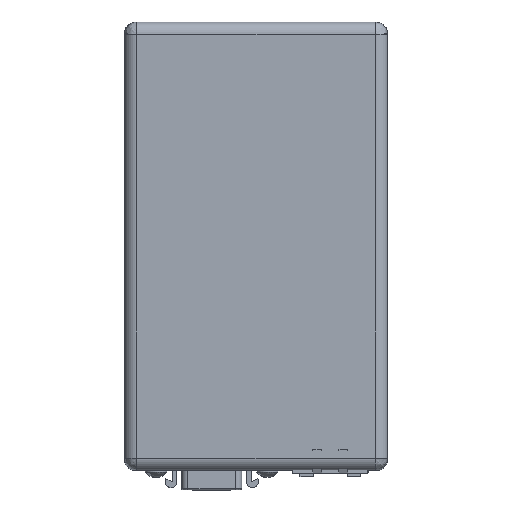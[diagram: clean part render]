
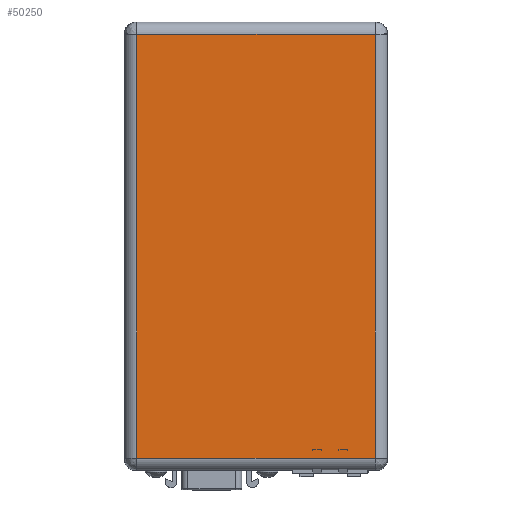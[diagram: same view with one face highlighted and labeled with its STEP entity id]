
A CAD part, top view. The second image highlights one B-rep face of the part: STEP entity #50250.
In plain terms, the highlighted planar face has unit normal (0, 0, 1).
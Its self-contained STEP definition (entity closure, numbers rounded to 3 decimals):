
#4275 = LINE ( 'NONE', #58547, #159715 ) ;
#18961 = ORIENTED_EDGE ( 'NONE', *, *, #56668, .T. ) ;
#28795 = VECTOR ( 'NONE', #150705, 1000. ) ;
#33739 = EDGE_CURVE ( 'NONE', #162296, #174188, #144188, .T. ) ;
#40463 = LINE ( 'NONE', #46530, #111364 ) ;
#42214 = CARTESIAN_POINT ( 'NONE',  ( -25.298, 18.948, 15.3 ) ) ;
#46530 = CARTESIAN_POINT ( 'NONE',  ( -25.298, 18.948, 15.3 ) ) ;
#49418 = DIRECTION ( 'NONE',  ( 0., -1., 0. ) ) ;
#50250 = ADVANCED_FACE ( 'NONE', ( #87317 ), #186194, .T. ) ;
#52895 = EDGE_CURVE ( 'NONE', #133987, #162296, #4275, .T. ) ;
#53396 = ORIENTED_EDGE ( 'NONE', *, *, #33739, .T. ) ;
#56668 = EDGE_CURVE ( 'NONE', #174188, #136455, #40463, .T. ) ;
#58176 = DIRECTION ( 'NONE',  ( 0., 1., 0. ) ) ;
#58547 = CARTESIAN_POINT ( 'NONE',  ( 25.298, 18.948, 15.3 ) ) ;
#62808 = VECTOR ( 'NONE', #124718, 1000. ) ;
#65899 = EDGE_LOOP ( 'NONE', ( #18961, #193239, #122834, #53396 ) ) ;
#67526 = LINE ( 'NONE', #109699, #62808 ) ;
#70304 = CARTESIAN_POINT ( 'NONE',  ( 25.298, -71.018, 15.3 ) ) ;
#75732 = EDGE_CURVE ( 'NONE', #136455, #133987, #67526, .T. ) ;
#87317 = FACE_OUTER_BOUND ( 'NONE', #65899, .T. ) ;
#104821 = CARTESIAN_POINT ( 'NONE',  ( 25.298, 18.948, 15.3 ) ) ;
#109699 = CARTESIAN_POINT ( 'NONE',  ( 25.298, -71.018, 15.3 ) ) ;
#111364 = VECTOR ( 'NONE', #49418, 1000. ) ;
#122834 = ORIENTED_EDGE ( 'NONE', *, *, #52895, .T. ) ;
#124718 = DIRECTION ( 'NONE',  ( 1., 0., 0. ) ) ;
#133987 = VERTEX_POINT ( 'NONE', #70304 ) ;
#136455 = VERTEX_POINT ( 'NONE', #169520 ) ;
#144188 = LINE ( 'NONE', #150858, #28795 ) ;
#150705 = DIRECTION ( 'NONE',  ( -1., 0., 0. ) ) ;
#150858 = CARTESIAN_POINT ( 'NONE',  ( 25.298, 18.948, 15.3 ) ) ;
#159715 = VECTOR ( 'NONE', #58176, 1000. ) ;
#162296 = VERTEX_POINT ( 'NONE', #104821 ) ;
#169520 = CARTESIAN_POINT ( 'NONE',  ( -25.298, -71.018, 15.3 ) ) ;
#174188 = VERTEX_POINT ( 'NONE', #42214 ) ;
#174305 = AXIS2_PLACEMENT_3D ( 'NONE', #185832, #185810, #185577 ) ;
#185577 = DIRECTION ( 'NONE',  ( 1., 0., 0. ) ) ;
#185810 = DIRECTION ( 'NONE',  ( 0., 0., 1. ) ) ;
#185832 = CARTESIAN_POINT ( 'NONE',  ( 25.298, 18.948, 15.3 ) ) ;
#186194 = PLANE ( 'NONE',  #174305 ) ;
#193239 = ORIENTED_EDGE ( 'NONE', *, *, #75732, .T. ) ;
